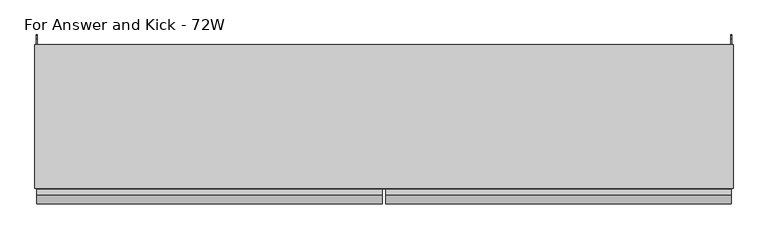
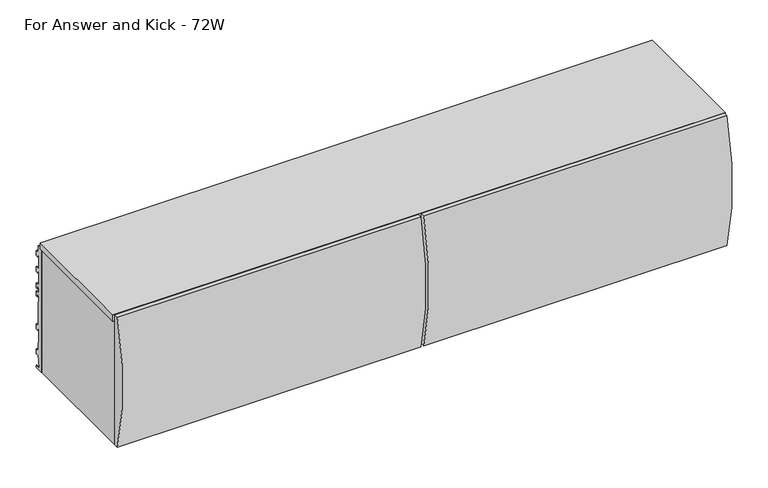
"""IFC4 building model written with IfcOpenShell, lengths in millimetres: furniture geometry, Steelcase - Universal Storage - Over the Case Bin - Radius Front : For Answer and Kick - 72W."""

from ifc_helpers import new_model, si_unit, point, frame, frame_2d, origin, place, context, project, spatial, polyline, circle_curve, trimmed, segment, composite_curve, outline, extrude, source, transform, mapped, element, save


def for_answer_and_kick_72w_12d8dadc(model_context):
    return source(origin(), model_context, "Body", "SweptSolid", [
        extrude(outline(polyline([(0.0, 1657.096), (15.428165, 1657.096), (15.428165, 1635.9725192), (24.6737648, 1635.9725192), (24.6737648, 1620.2499324), (17.7141651, 1620.2499324), (17.7141651, 1627.4034202), (15.428165, 1627.4034202), (13.3707653, 1623.8398995), (13.3707653, 1584.7332049), (24.4959651, 1584.7332049), (24.4959651, 1569.0106181), (17.7141651, 1569.0106181), (17.7141651, 1576.1734076), (15.428165, 1576.1734076), (13.3707653, 1572.6099624), (13.3707653, 1533.4938907), (24.6737648, 1533.4938907), (24.6737648, 1517.7713038), (17.5768, 1517.7713038), (17.5768, 1524.9340934), (15.4248855, 1524.9340934), (13.3349998, 1521.3219111), (13.3349998, 1508.4166423), (24.6737648, 1508.4166423), (24.6737648, 1492.6940555), (17.5768, 1492.6940555), (17.5768, 1499.856845), (15.4205129, 1499.856845), (13.3933344, 1496.3530466), (13.3933344, 1483.6530466), (15.428165, 1479.2893385), (15.428165, 1403.8551467), (24.6737648, 1403.8551467), (24.6737648, 1388.1325599), (17.7141651, 1388.1325599), (17.7141651, 1395.2982562), (15.428165, 1395.2982562), (13.3306079, 1391.6651808), (13.3306079, 1353.5651808), (15.428165, 1349.9321054), (15.428165, 1325.1000701), (24.6737648, 1325.1000701), (24.6737648, 1309.3774833), (17.7141651, 1309.3774833), (17.7141651, 1316.5328605), (15.428165, 1316.5328605), (15.428165, 1303.5355433), (13.2046809, 1299.684356), (13.2046809, 1282.9679719), (11.2879653, 1282.9679719), (11.2879653, 1271.9303504), (26.4009645, 1271.9303504), (26.4009645, 1265.428), (0.0, 1265.428), (0.0, 1657.096)])), frame((1823.2882, 0.0, 0.0), z_axis=(1.0, 0.0, 0.0), x_axis=(0.0, 1.0, 0.0)), (0.0, 0.0, 1.0), 1.905),
        extrude(outline(polyline([(0.0, 1657.096), (15.428165, 1657.096), (15.428165, 1635.9725192), (24.6737648, 1635.9725192), (24.6737648, 1620.2499324), (17.7141651, 1620.2499324), (17.7141651, 1627.4034202), (15.428165, 1627.4034202), (13.3707653, 1623.8398995), (13.3707653, 1584.7332049), (24.4959651, 1584.7332049), (24.4959651, 1569.0106181), (17.7141651, 1569.0106181), (17.7141651, 1576.1734076), (15.428165, 1576.1734076), (13.3707653, 1572.6099624), (13.3707653, 1533.4938907), (24.6737648, 1533.4938907), (24.6737648, 1517.7713038), (17.5768, 1517.7713038), (17.5768, 1524.9340934), (15.4248855, 1524.9340934), (13.3349998, 1521.3219111), (13.3349998, 1508.4166423), (24.6737648, 1508.4166423), (24.6737648, 1492.6940555), (17.5768, 1492.6940555), (17.5768, 1499.856845), (15.4205129, 1499.856845), (13.3933344, 1496.3530466), (13.3933344, 1483.6530466), (15.428165, 1479.2893385), (15.428165, 1403.8551467), (24.6737648, 1403.8551467), (24.6737648, 1388.1325599), (17.7141651, 1388.1325599), (17.7141651, 1395.2982562), (15.428165, 1395.2982562), (13.3306079, 1391.6651808), (13.3306079, 1353.5651808), (15.428165, 1349.9321054), (15.428165, 1325.1000701), (24.6737648, 1325.1000701), (24.6737648, 1309.3774833), (17.7141651, 1309.3774833), (17.7141651, 1316.5328605), (15.428165, 1316.5328605), (15.428165, 1303.5355433), (13.2046809, 1299.684356), (13.2046809, 1282.9679719), (11.2879653, 1282.9679719), (11.2879653, 1271.9303504), (26.4009645, 1271.9303504), (26.4009645, 1265.428), (0.0, 1265.428), (0.0, 1657.096)])), frame((3.6068, 0.0, 0.0), z_axis=(1.0, 0.0, 0.0), x_axis=(0.0, 1.0, 0.0)), (0.0, 0.0, 1.0), 1.905),
        extrude(outline(composite_curve([segment(polyline([(-393.0769518, 1677.2612846), (-379.476, 1677.2612846), (-379.476, 1266.8226746), (-393.0769518, 1266.8226746)]), True, "CONTINUOUS"), segment(trimmed(circle_curve(frame_2d((352.6331971, 1472.0419796)), 773.4329895), [point((-393.0769518, 1266.8226746))], [point((-393.0769518, 1677.2612846))], False, "CARTESIAN"), True, "CONTINUOUS")], self_intersect=False)), frame((918.972, 0.0, 0.0), z_axis=(1.0, 0.0, 0.0), x_axis=(0.0, 1.0, 0.0)), (0.0, 0.0, 1.0), 905.3983),
        extrude(outline(composite_curve([segment(polyline([(-393.0769518, 1677.2612846), (-379.476, 1677.2612846), (-379.476, 1266.8226746), (-393.0769518, 1266.8226746)]), True, "CONTINUOUS"), segment(trimmed(circle_curve(frame_2d((352.6331971, 1472.0419796)), 773.4329895), [point((-393.0769518, 1266.8226746))], [point((-393.0769518, 1677.2612846))], False, "CARTESIAN"), True, "CONTINUOUS")], self_intersect=False)), frame((4.4448587, 0.0, 0.0), z_axis=(1.0, 0.0, 0.0), x_axis=(0.0, 1.0, 0.0)), (0.0, 0.0, 1.0), 905.3831413),
        extrude(outline(polyline([(1828.8, -377.213238), (0.0, -377.213238), (0.0, 0.0), (1828.8, 0.0), (1828.8, -377.213238)])), frame((0.0, 0.0, 1657.35), z_axis=(0.0, 0.0, 1.0), x_axis=(1.0, 0.0, 0.0)), (0.0, 0.0, 1.0), 19.05),
        extrude(outline(polyline([(15.875, -377.213238), (5.5118, -377.213238), (5.5118, 0.0), (15.875, 0.0), (15.875, -377.213238)])), frame((0.0, 0.0, 1265.428), z_axis=(0.0, 0.0, 1.0), x_axis=(1.0, 0.0, 0.0)), (0.0, 0.0, 1.0), 391.6679457),
        extrude(outline(polyline([(1827.6568665, -377.213238), (1812.925, -377.213238), (1812.925, 0.0), (1827.6568665, 0.0), (1827.6568665, -377.213238)])), frame((0.0, 0.0, 1265.428), z_axis=(0.0, 0.0, 1.0), x_axis=(1.0, 0.0, 0.0)), (0.0, 0.0, 1.0), 391.6679457),
        extrude(outline(polyline([(-35.4584098, 1372.819257), (-27.0763996, 1372.819257), (-27.0763996, 1360.1191601), (-33.4264117, 1360.1191601), (-33.4264117, 1323.1622589), (-27.0763996, 1323.1622589), (-27.0763996, 1265.428), (-35.4584098, 1265.428), (-35.4584098, 1293.054213), (-46.1263996, 1293.054213), (-46.1263996, 1268.1875622), (-59.9694137, 1268.1875622), (-59.9694137, 1294.8575912), (-332.8542818, 1294.8575912), (-332.8542818, 1268.1875622), (-377.3042823, 1268.1875622), (-377.3042823, 1310.7072052), (-35.4584098, 1310.7072052), (-35.4584098, 1372.819257)])), frame((15.875, 0.0, 0.0), z_axis=(1.0, 0.0, 0.0), x_axis=(0.0, 1.0, 0.0)), (0.0, 0.0, 1.0), 1797.05),
    ])


if __name__ == "__main__":
    model = new_model("IFC4")
    model_context = context("Model", 3, world=origin())
    ifc_project = project(units=[si_unit("LENGTHUNIT", "METRE", prefix="MILLI")], contexts=[model_context])
    site = spatial("IfcSite", under=ifc_project)
    building = spatial("IfcBuilding", under=site)
    placement = place(None, origin())
    for_answer_and_kick_72w_shape = for_answer_and_kick_72w_12d8dadc(model_context)
    element("IfcFurniture", 1, ObjectType="Steelcase - Universal Storage - Over the Case Bin - Radius Front : For Answer and Kick - 72W", at=placement, inside=building, context=model_context, shape_type="MappedRepresentation", body=[
        mapped(for_answer_and_kick_72w_shape, transform((0.0, 0.0, 0.0), x_axis=(1.0, 0.0, 0.0), y_axis=(0.0, 1.0, 0.0), z_axis=(0.0, 0.0, 1.0))),
    ])
    save(model, "model.ifc")
